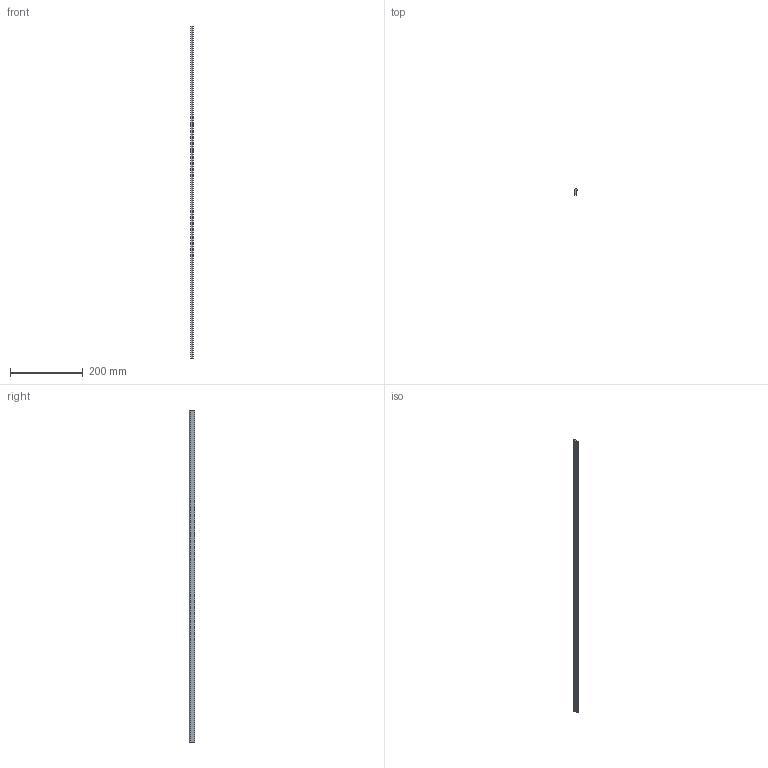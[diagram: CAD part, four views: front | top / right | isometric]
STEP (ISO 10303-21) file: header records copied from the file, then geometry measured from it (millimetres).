
FILE_DESCRIPTION( ( 'STEP AP214' ), '1' );
FILE_NAME( 'p:/temp/worker_45/temp/app_45_02019012316362184256048192d056f_000000_00_00_000000/format_0/T2-3.stp', '2019-01-23T15:36:22', ( '' ), ( '' ), ' ', 'PARTsolutions', ' ' );
FILE_SCHEMA( ( 'AUTOMOTIVE_DESIGN { 1 0 10303 214 1 1 1 1 }' ) );
Length unit declared in the file: inch
Products named in the file (1): _T2-3
Bounding box: 6.35 x 15.11 x 914.4 mm (x, y, z)
Volume: 57560.6 mm3; surface area: 37455.3 mm2
Topology: 1 solids, 1 shells, 11 faces, 27 edges, 18 vertices
Faces by surface type: plane 10, cylinder 1
Entity records: 427 total; most frequent: CARTESIAN_POINT 57, ORIENTED_EDGE 54, DIRECTION 53, EDGE_CURVE 27, LINE 25, VECTOR 25, VERTEX_POINT 18, AXIS2_PLACEMENT_3D 14
